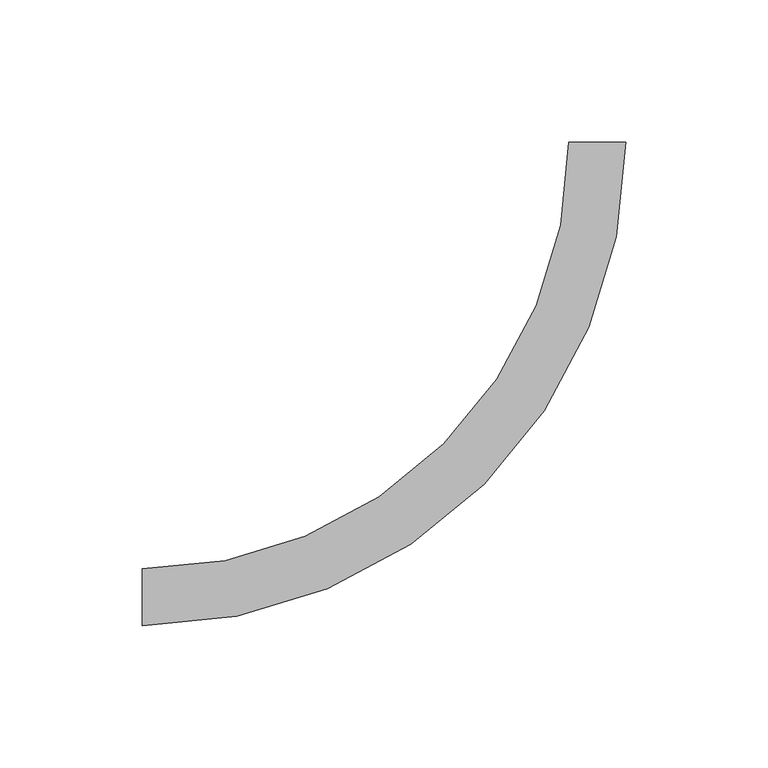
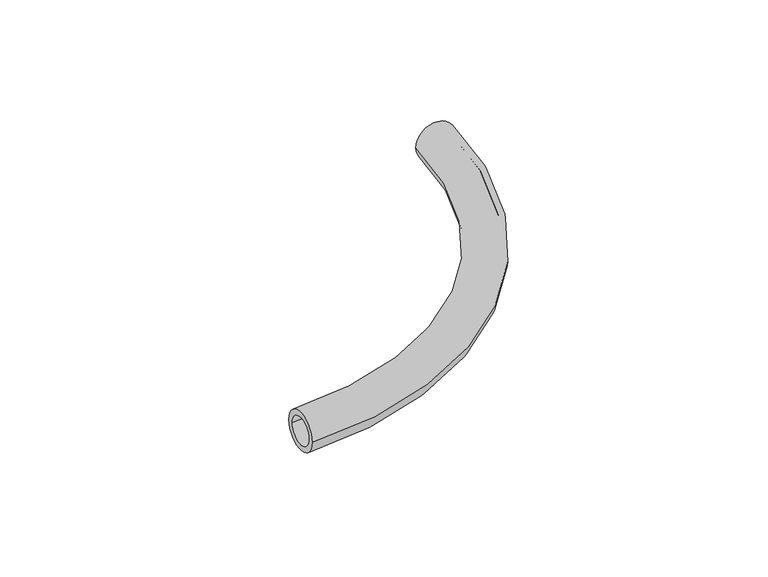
"""IFC4 building model written with IfcOpenShell, lengths in millimetres: pipe fitting geometry, FASTLOC_ML_bend : FSL ML AT."""

from ifc_helpers import new_model, si_unit, point, frame, origin, place, context, project, spatial, circle_curve, ellipse_curve, trimmed, source, transform, mapped, element, save
from ifc_brep_helpers import plane_surface, revolved_surface, advanced_brep


def pipe_fitting_50552096(model_context):
    return source(origin(), model_context, "Body", "AdvancedBrep", [
        advanced_brep(
        [(-160.0, -10.0, 0.0), (-160.0, 10.0, 0.0), (-160.0, -7.1, 0.0), (-160.0, 7.1, 0.0), (10.0, 160.0, 0.0), (-10.0, 160.0, 0.0), (7.1, 160.0, 0.0), (-7.1, 160.0, 0.0)],
        [
            (0, 1, circle_curve(frame((-160.0, 0.0, 0.0), z_axis=(-1.0, 0.0, 0.0), x_axis=(0.0, 1.0, 0.0)), 10.0)),
            (1, 0, circle_curve(frame((-160.0, 0.0, 0.0), z_axis=(-1.0, 0.0, 0.0), x_axis=(0.0, 1.0, 0.0)), 10.0)),
            (2, 3, circle_curve(frame((-160.0, 0.0, 0.0), z_axis=(1.0, 0.0, 0.0), x_axis=(0.0, 1.0, 0.0)), 7.1)),
            (3, 2, circle_curve(frame((-160.0, 0.0, 0.0), z_axis=(1.0, 0.0, 0.0), x_axis=(0.0, 1.0, 0.0)), 7.1)),
            (4, 5, circle_curve(frame((0.0, 160.0, 0.0), z_axis=(0.0, 1.0, 0.0), x_axis=(-1.0, 0.0, 0.0)), 10.0)),
            (5, 4, circle_curve(frame((0.0, 160.0, 0.0), z_axis=(0.0, 1.0, 0.0), x_axis=(-1.0, 0.0, 0.0)), 10.0)),
            (6, 7, circle_curve(frame((0.0, 160.0, 0.0), z_axis=(0.0, -1.0, 0.0), x_axis=(-1.0, 0.0, 0.0)), 7.1)),
            (7, 6, circle_curve(frame((0.0, 160.0, 0.0), z_axis=(0.0, -1.0, 0.0), x_axis=(-1.0, 0.0, 0.0)), 7.1)),
            (7, 3, circle_curve(frame((-160.0, 160.0, 0.0), z_axis=(0.0, 0.0, -1.0), x_axis=(0.0, -1.0, 0.0)), 152.9)),
            (2, 6, circle_curve(frame((-160.0, 160.0, 0.0), z_axis=(0.0, 0.0, 1.0), x_axis=(0.0, -1.0, 0.0)), 167.1)),
            (5, 1, circle_curve(frame((-160.0, 160.0, 0.0), z_axis=(0.0, 0.0, -1.0), x_axis=(0.0, -1.0, 0.0)), 150.0)),
            (0, 4, circle_curve(frame((-160.0, 160.0, 0.0), z_axis=(0.0, 0.0, 1.0), x_axis=(0.0, -1.0, 0.0)), 170.0)),
        ],
        [
            plane_surface(frame((-160.0, 0.0, 0.0), z_axis=(-1.0, 0.0, 0.0), x_axis=(0.0, 0.0, 1.0))),
            plane_surface(frame((0.0, 160.0, 0.0), z_axis=(0.0, 1.0, 0.0), x_axis=(0.0, 0.0, 1.0))),
            revolved_surface(trimmed(ellipse_curve(frame((-160.0, 0.0, 0.0), z_axis=(1.0, 0.0, 0.0), x_axis=(0.0, 1.0, 0.0)), 7.1, 7.1), [point((-160.0, -7.1, 0.0))], [point((-160.0, 7.1, 0.0))], True, "CARTESIAN"), (-160.0, 160.0, 0.0), (0.0, 0.0, 1.0)),
            revolved_surface(trimmed(ellipse_curve(frame((-160.0, 0.0, 0.0), z_axis=(1.0, 0.0, 0.0), x_axis=(0.0, 1.0, 0.0)), 7.1, 7.1), [point((-160.0, 7.1, 0.0))], [point((-160.0, -7.1, 0.0))], True, "CARTESIAN"), (-160.0, 160.0, 0.0), (0.0, 0.0, 1.0)),
            revolved_surface(trimmed(ellipse_curve(frame((-160.0, 0.0, 0.0), z_axis=(-1.0, 0.0, 0.0), x_axis=(0.0, 1.0, 0.0)), 10.0, 10.0), [point((-160.0, -10.0, 0.0))], [point((-160.0, 10.0, 0.0))], True, "CARTESIAN"), (-160.0, 160.0, 0.0), (0.0, 0.0, 1.0)),
            revolved_surface(trimmed(ellipse_curve(frame((-160.0, 0.0, 0.0), z_axis=(-1.0, 0.0, 0.0), x_axis=(0.0, 1.0, 0.0)), 10.0, 10.0), [point((-160.0, 10.0, 0.0))], [point((-160.0, -10.0, 0.0))], True, "CARTESIAN"), (-160.0, 160.0, 0.0), (0.0, 0.0, 1.0)),
        ],
        [
            (0, [[1, 2], [3, 4]]),
            (1, [[5, 6], [7, 8]]),
            (2, [[9, -3, 10, -8]]),
            (3, [[-10, -4, -9, -7]]),
            (4, [[11, -1, 12, -6]]),
            (5, [[-12, -2, -11, -5]]),
        ],
    ),
    ])


if __name__ == "__main__":
    model = new_model("IFC4")
    model_context = context("Model", 3, world=origin())
    ifc_project = project(units=[si_unit("LENGTHUNIT", "METRE", prefix="MILLI")], contexts=[model_context])
    site = spatial("IfcSite", under=ifc_project)
    building = spatial("IfcBuilding", under=site)
    placement = place(None, origin())
    pipe_fitting_shape = pipe_fitting_50552096(model_context)
    element("IfcPipeFitting", 1, ObjectType="FASTLOC_ML_bend : FSL ML AT", at=placement, inside=building, context=model_context, shape_type="MappedRepresentation", body=[
        mapped(pipe_fitting_shape, transform((0.0, 0.0, 0.0), x_axis=(1.0, 0.0, 0.0), y_axis=(0.0, 1.0, 0.0), z_axis=(0.0, 0.0, 1.0))),
    ])
    save(model, "model.ifc")
